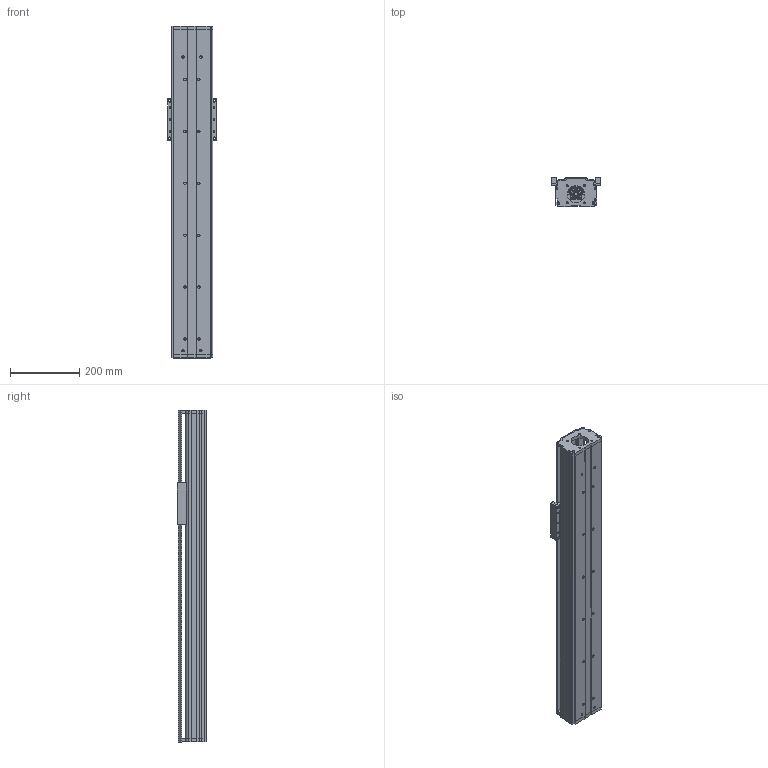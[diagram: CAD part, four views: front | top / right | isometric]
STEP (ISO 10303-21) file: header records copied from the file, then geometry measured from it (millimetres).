
FILE_DESCRIPTION (( 'STEP AP203' ), '1' );
FILE_NAME ('CF120-P750.STEP', '2016-02-23T02:05:29', ( 'Sky123.Org' ), ( 'Sky123.Org' ), 'SwSTEP 2.0', 'SolidWorks 2015', '' );
FILE_SCHEMA (( 'CONFIG_CONTROL_DESIGN' ));
Length unit declared in the file: millimetre
Products named in the file (15): CF120-P350-560裔啣; 粣創結啣; CF120-P750; EK12; EF12; CF120賑雄啣; cf120-60萇儂釱; CF120蹟譫釱; CF120傷裔耜啣-sigan; EGR15-P600-880; EGH-15-CABZnew; EK12+EF12-P600-744; SFU1605-3蹟譫; CF120-P350-540臏倰第
Assembly tree (18 placements, depth 3):
  CF120-P750
    cf120-60萇儂釱
    CF120傷裔耜啣-sigan
    EGH-15-CABZnew  x4
    SFU1605-3蹟譫
    EK12
      EK12
      粣創結啣
    EF12
    CF120賑雄啣
    CF120蹟譫釱
    EGR15-P600-880  x2
    EK12+EF12-P600-744
    CF120-P350-540臏倰第
    CF120-P350-560裔啣
Bounding box: 140 x 84.5 x 960 mm (x, y, z)
Volume: 3331712.6 mm3; surface area: 1144426.6 mm2
Topology: 13 solids, 65 shells, 7319 faces, 27582 edges, 18957 vertices
Faces by surface type: plane 3543, bspline 2351, cylinder 1035, cone 150, torus 136, sphere 104
Entity records: 131449 total; most frequent: CARTESIAN_POINT 57972, ORIENTED_EDGE 15686, DIRECTION 12283, EDGE_CURVE 8967, VERTEX_POINT 6110, LINE 5217, VECTOR 5217, AXIS2_PLACEMENT_3D 3533
